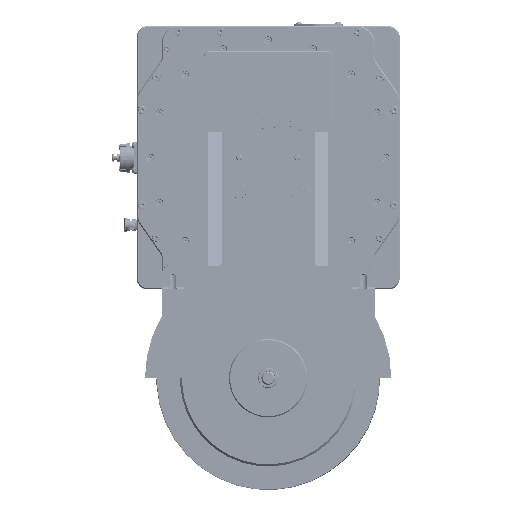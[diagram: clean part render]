
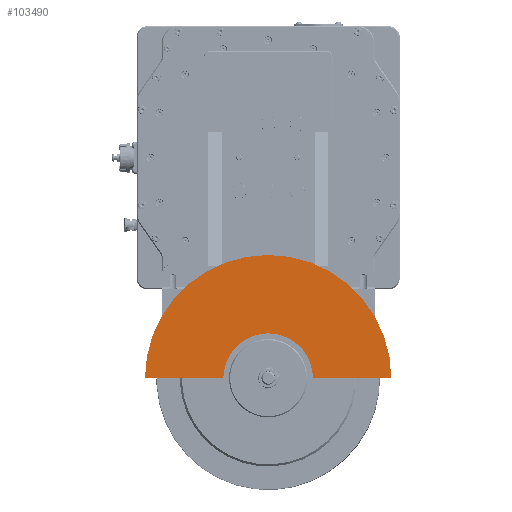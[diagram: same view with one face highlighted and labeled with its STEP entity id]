
A CAD part, top view. The second image highlights one B-rep face of the part: STEP entity #103490.
In plain terms, the highlighted planar face has unit normal (0, 0, 1).
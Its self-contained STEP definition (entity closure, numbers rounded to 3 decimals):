
#2333 = VERTEX_POINT ( 'NONE', #225659 ) ;
#8664 = DIRECTION ( 'NONE',  ( 1., 0., 0. ) ) ;
#8781 = ORIENTED_EDGE ( 'NONE', *, *, #231110, .T. ) ;
#29441 = DIRECTION ( 'NONE',  ( 0., 0., 1. ) ) ;
#43173 = AXIS2_PLACEMENT_3D ( 'NONE', #219876, #29441, #8664 ) ;
#48124 = AXIS2_PLACEMENT_3D ( 'NONE', #114641, #72910, #117428 ) ;
#49772 = CARTESIAN_POINT ( 'NONE',  ( 110., 0., 17.5 ) ) ;
#56303 = ORIENTED_EDGE ( 'NONE', *, *, #250673, .T. ) ;
#63347 = CARTESIAN_POINT ( 'NONE',  ( -40., 0., 17.5 ) ) ;
#71437 = CIRCLE ( 'NONE', #138177, 40. ) ;
#72910 = DIRECTION ( 'NONE',  ( 0., 0., 1. ) ) ;
#79230 = DIRECTION ( 'NONE',  ( 1., 0., 0. ) ) ;
#87537 = CARTESIAN_POINT ( 'NONE',  ( 40., 0., 17.5 ) ) ;
#91201 = ORIENTED_EDGE ( 'NONE', *, *, #220234, .T. ) ;
#103490 = ADVANCED_FACE ( 'NONE', ( #178605 ), #223109, .T. ) ;
#106145 = EDGE_CURVE ( 'NONE', #113269, #2333, #71437, .T. ) ;
#113269 = VERTEX_POINT ( 'NONE', #63347 ) ;
#114641 = CARTESIAN_POINT ( 'NONE',  ( 0., 0., 17.5 ) ) ;
#117428 = DIRECTION ( 'NONE',  ( 1., 0., 0. ) ) ;
#127931 = DIRECTION ( 'NONE',  ( 1., 0., 0. ) ) ;
#138177 = AXIS2_PLACEMENT_3D ( 'NONE', #267682, #141095, #225914 ) ;
#140383 = VECTOR ( 'NONE', #79230, 1000. ) ;
#141095 = DIRECTION ( 'NONE',  ( 0., 0., -1. ) ) ;
#144909 = VECTOR ( 'NONE', #127931, 1000. ) ;
#162026 = VERTEX_POINT ( 'NONE', #49772 ) ;
#171764 = CIRCLE ( 'NONE', #43173, 110. ) ;
#178605 = FACE_OUTER_BOUND ( 'NONE', #218005, .T. ) ;
#205873 = LINE ( 'NONE', #269879, #140383 ) ;
#206536 = VERTEX_POINT ( 'NONE', #242947 ) ;
#211416 = LINE ( 'NONE', #87537, #144909 ) ;
#218005 = EDGE_LOOP ( 'NONE', ( #8781, #91201, #262871, #56303 ) ) ;
#219876 = CARTESIAN_POINT ( 'NONE',  ( 0., 0., 17.5 ) ) ;
#220234 = EDGE_CURVE ( 'NONE', #206536, #113269, #205873, .T. ) ;
#223109 = PLANE ( 'NONE',  #48124 ) ;
#225659 = CARTESIAN_POINT ( 'NONE',  ( 40., 0., 17.5 ) ) ;
#225914 = DIRECTION ( 'NONE',  ( 1., 0., 0. ) ) ;
#231110 = EDGE_CURVE ( 'NONE', #162026, #206536, #171764, .T. ) ;
#242947 = CARTESIAN_POINT ( 'NONE',  ( -110., 0., 17.5 ) ) ;
#250673 = EDGE_CURVE ( 'NONE', #2333, #162026, #211416, .T. ) ;
#262871 = ORIENTED_EDGE ( 'NONE', *, *, #106145, .T. ) ;
#267682 = CARTESIAN_POINT ( 'NONE',  ( 0., 0., 17.5 ) ) ;
#269879 = CARTESIAN_POINT ( 'NONE',  ( -110., 0., 17.5 ) ) ;
